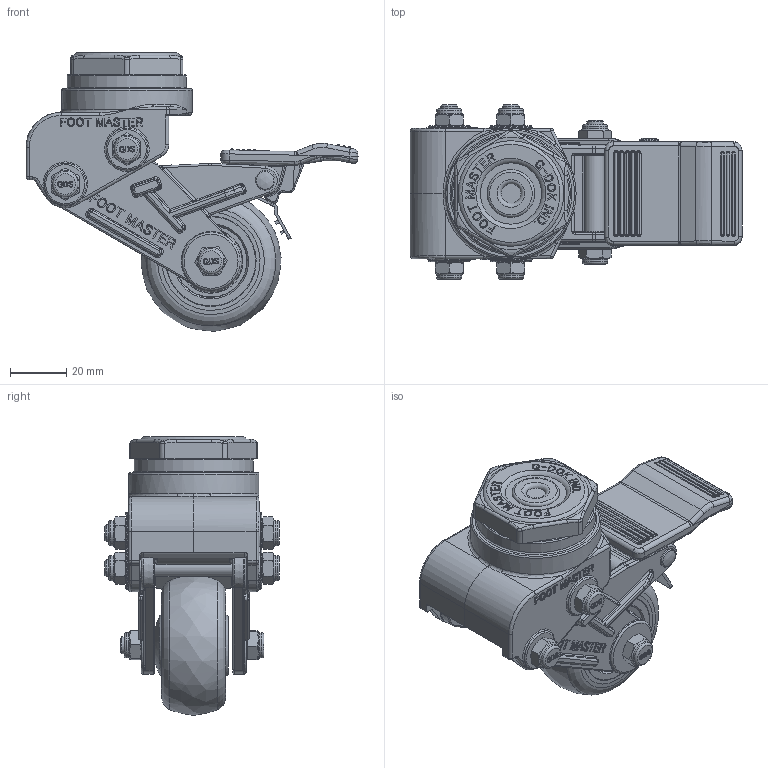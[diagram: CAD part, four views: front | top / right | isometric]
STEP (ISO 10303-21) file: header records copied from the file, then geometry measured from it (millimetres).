
FILE_DESCRIPTION(/* description */ (''),/* implementation_level */ '2;1');
FILE_NAME(/* name */ 'C:\Users\admin\Desktop\JYS\개발품\상세설계_20220328\홈페이지용 도면\GDS-50-BSS-EUS.stp',/* time_stamp */ '2023-03-08T14:54:05+09:00',/* author */ ('admin'),/* organization */ (''),/* preprocessor_version */ 'ST-DEVELOPER v18.1',/* originating_system */ 'Autodesk Inventor 2021',/* authorisation */ '');
FILE_SCHEMA (('AUTOMOTIVE_DESIGN { 1 0 10303 214 3 1 1 }'));
Products named in the file (1): GDS-50_BSS_REV01_Shrinkwrap_1
Bounding box: 118.43 x 62.3 x 99.37 mm (x, y, z)
Volume: 134240.7 mm3; surface area: 51940.9 mm2
Topology: 1 solids, 1 shells, 2710 faces, 6962 edges, 4355 vertices
Faces by surface type: plane 946, bspline 854, cylinder 543, cone 161, torus 154, sphere 52
Full cylindrical faces by diameter (mm): 2 x1, 4 x3, 6 x5, 7 x2, 8.8 x3, 9 x6, 17.216 x2, 18 x1, 20 x2, 22 x2, 22.784 x2, 30 x1, 42.5 x1, 46.5 x1
Entity records: 94503 total; most frequent: CARTESIAN_POINT 30542, ORIENTED_EDGE 13848, DIRECTION 10949, EDGE_CURVE 6924, VERTEX_POINT 4355, AXIS2_PLACEMENT_3D 3850, LINE 3249, VECTOR 3249
